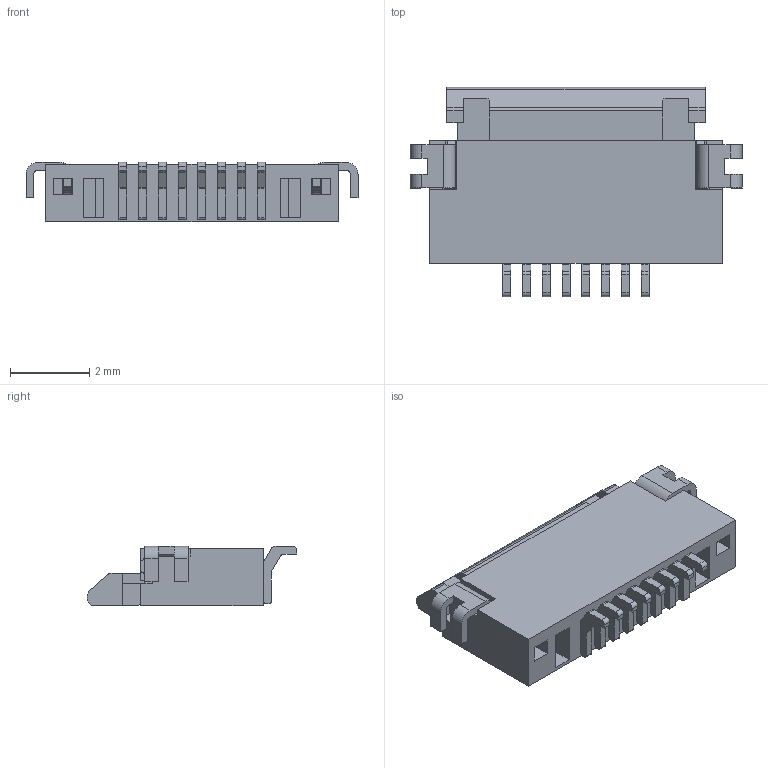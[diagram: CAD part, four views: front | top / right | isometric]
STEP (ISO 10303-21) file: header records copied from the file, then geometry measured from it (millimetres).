
FILE_DESCRIPTION((''),'2;1');
FILE_NAME('S-50506-008XX-XXX_ASM','2017-09-30T',('k41758'),(''),'PRO/ENGINEER BY PARAMETRIC TECHNOLOGY CORPORATION, 2009360','PRO/ENGINEER BY PARAMETRIC TECHNOLOGY CORPORATION, 2009360','');
FILE_SCHEMA(('CONFIG_CONTROL_DESIGN'));
Length unit declared in the file: millimetre
Products named in the file (1): S-50506-008XX-XXX_ASM
Bounding box: 8.4 x 5.3 x 1.5 mm (x, y, z)
Volume: 29 mm3; surface area: 205.1 mm2
Topology: 1 solids, 1 shells, 728 faces, 2209 edges, 1473 vertices
Faces by surface type: plane 496, cylinder 232
Entity records: 24931 total; most frequent: CARTESIAN_POINT 4482, ORIENTED_EDGE 4418, DIRECTION 4173, EDGE_CURVE 2209, VECTOR 1669, LINE 1669, VERTEX_POINT 1473, AXIS2_PLACEMENT_3D 1252
